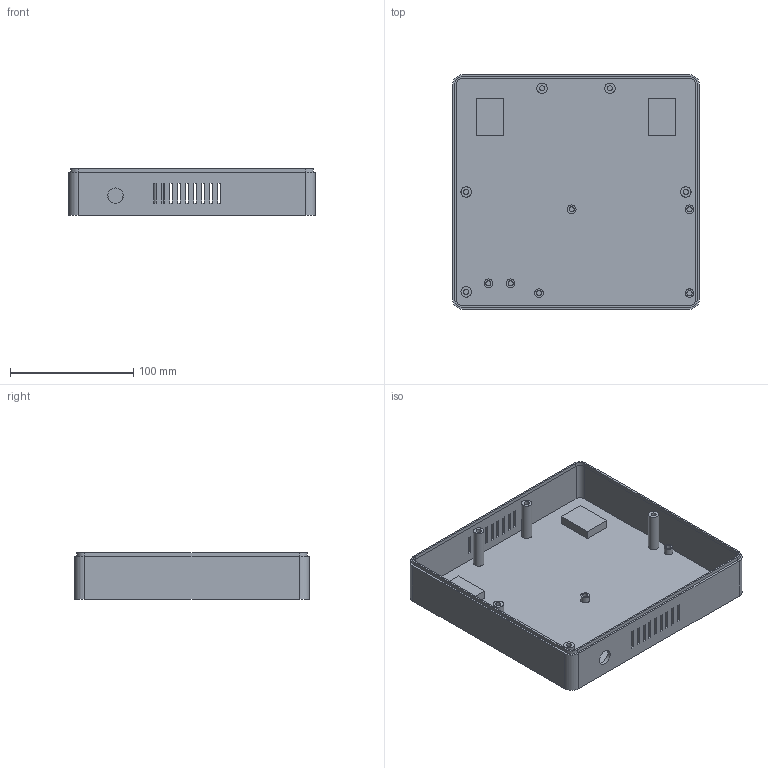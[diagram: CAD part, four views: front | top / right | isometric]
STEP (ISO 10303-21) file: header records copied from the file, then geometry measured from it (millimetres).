
FILE_DESCRIPTION(('Open CASCADE Model'),'2;1');
FILE_NAME('Open CASCADE Shape Model','2026-11-16T01:16:52',('Author'),( 'Open CASCADE'),'Open CASCADE STEP processor 7.7','Open CASCADE 7.7' ,'Unknown');
FILE_SCHEMA(('AUTOMOTIVE_DESIGN { 1 0 10303 214 1 1 1 1 }'));
Length unit declared in the file: millimetre
Products named in the file (1): Open CASCADE STEP translator 7.7 1
Bounding box: 200 x 190 x 37.99 mm (x, y, z)
Volume: 204341.2 mm3; surface area: 140162.4 mm2
Topology: 1 solids, 1 shells, 197 faces, 489 edges, 326 vertices
Faces by surface type: plane 146, cylinder 51
Full cylindrical faces by diameter (mm): 4.2 x11, 7 x6, 8.5 x5, 12.5 x1
Entity records: 11994 total; most frequent: CARTESIAN_POINT 2575, DIRECTION 1551, ORIENTED_EDGE 978, PCURVE 978, DEFINITIONAL_REPRESENTATION 978, LINE 883, VECTOR 883, EDGE_CURVE 489
